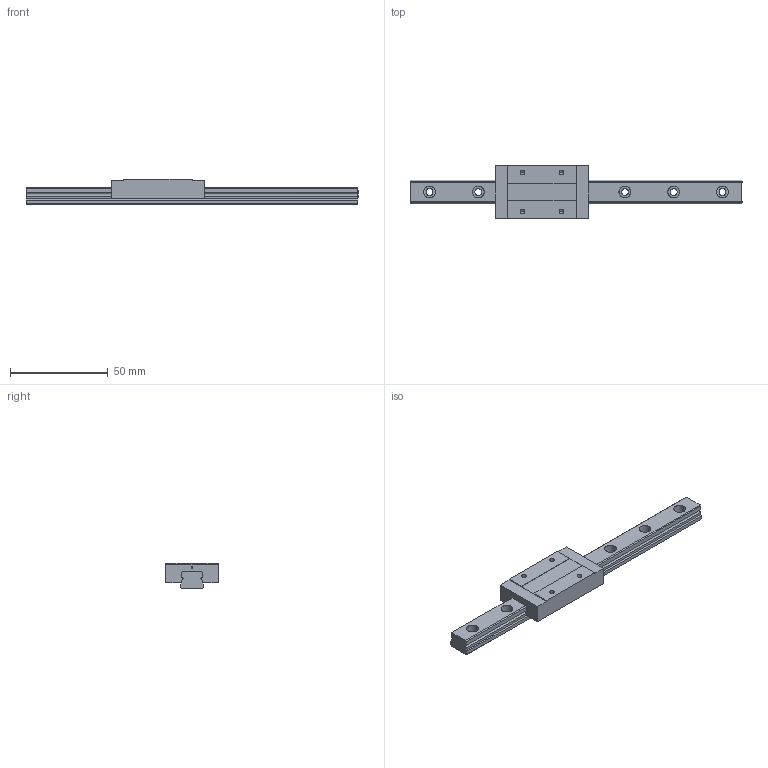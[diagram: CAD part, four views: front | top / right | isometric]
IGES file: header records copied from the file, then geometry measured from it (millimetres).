
Global section: file name: No Iges File Name specified; native system: AutoDesk Inventor R10; preprocessor: AutoDesk Inventor Iges Exporter R10; author: No Author specified; organization: No Organization specified; date: 20101222.162528; units: millimetre
Bounding box: 170 x 27 x 13 mm (x, y, z)
Surface area: 12754.3 mm2 (no closed solid volume)
Topology: 0 solids, 0 shells, 99 faces, 660 edges, 652 vertices
Faces by surface type: bspline 99
